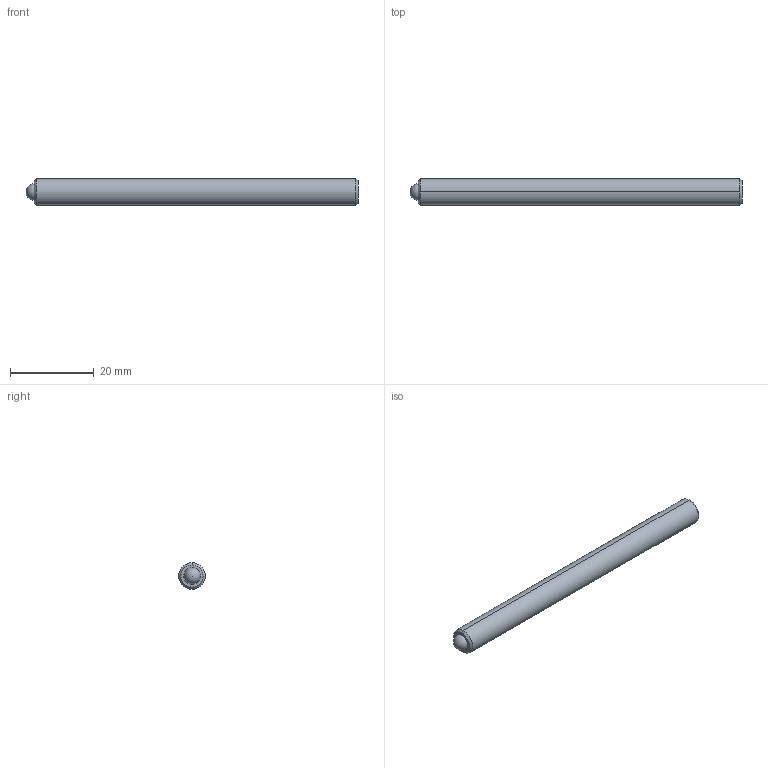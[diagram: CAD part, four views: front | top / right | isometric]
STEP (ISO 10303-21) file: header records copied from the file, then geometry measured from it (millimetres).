
FILE_DESCRIPTION (( 'STEP AP214' ), '1' );
FILE_NAME ('TS250-80-3125.STEP', '2013-02-11T21:10:47', ( 'workpc' ), ( 'Microsoft' ), 'SwSTEP 2.0', 'SolidWorks 2013', '' );
FILE_SCHEMA (( 'AUTOMOTIVE_DESIGN' ));
Length unit declared in the file: inch
Products named in the file (1): TS250-80-3125
Bounding box: 79.38 x 6.35 x 6.35 mm (x, y, z)
Volume: 2443.1 mm3; surface area: 1687.7 mm2
Topology: 2 solids, 2 shells, 20 faces, 45 edges, 29 vertices
Faces by surface type: plane 10, cylinder 4, cone 4, sphere 2
Entity records: 599 total; most frequent: DIRECTION 96, CARTESIAN_POINT 87, ORIENTED_EDGE 80, EDGE_CURVE 40, AXIS2_PLACEMENT_3D 35, LINE 26, VERTEX_POINT 26, VECTOR 26
